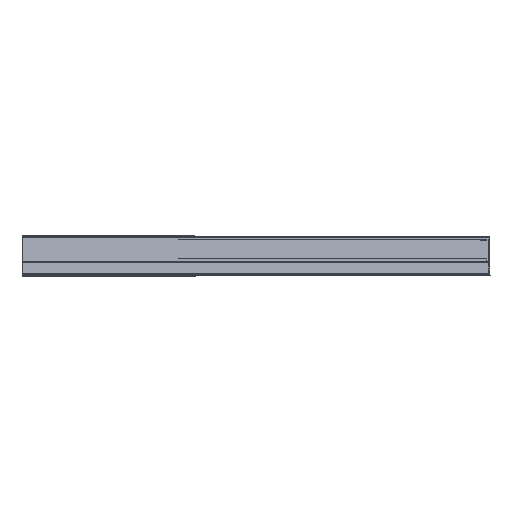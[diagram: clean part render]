
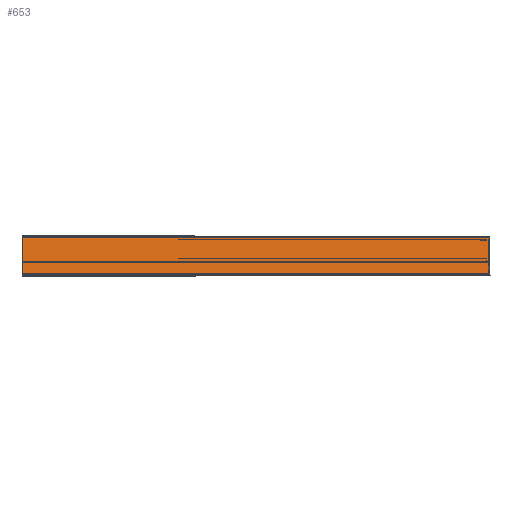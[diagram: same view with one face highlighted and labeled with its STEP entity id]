
A CAD part, top view. The second image highlights one B-rep face of the part: STEP entity #653.
In plain terms, the highlighted planar face has unit normal (0.5, 0, 0.866) as drawn and (-1, 0, 0) by its records, which use the part's own axes.
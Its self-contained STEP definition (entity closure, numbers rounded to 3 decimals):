
#653=ADVANCED_FACE('',(#2896),#2898,.T.);
#2896=FACE_BOUND('',#2897,.T.);
#2897=EDGE_LOOP('',(#6294,#6295,#6296,#6297));
#2898=PLANE('',#2899);
#2899=AXIS2_PLACEMENT_3D('',#2900,#2901,#2902);
#2900=CARTESIAN_POINT('',(-17.5,4.,-548.5));
#2901=DIRECTION('',(-1.,0.,0.));
#2902=DIRECTION('',(0.,-1.,0.));
#6294=ORIENTED_EDGE('',*,*,#8877,.T.);
#6295=ORIENTED_EDGE('',*,*,#8876,.T.);
#6296=ORIENTED_EDGE('',*,*,#8878,.T.);
#6297=ORIENTED_EDGE('',*,*,#8879,.F.);
#8876=EDGE_CURVE('',#10974,#10976,#10978,.T.);
#8877=EDGE_CURVE('',#10979,#10974,#10980,.F.);
#8878=EDGE_CURVE('',#10976,#10981,#10982,.F.);
#8879=EDGE_CURVE('',#10979,#10981,#10983,.T.);
#10974=VERTEX_POINT('',#15446);
#10976=VERTEX_POINT('',#15451);
#10978=LINE('',#15456,#15457);
#10979=VERTEX_POINT('',#15459);
#10980=LINE('',#15460,#15461);
#10981=VERTEX_POINT('',#15463);
#10982=LINE('',#15464,#15465);
#10983=LINE('',#15467,#15468);
#15446=CARTESIAN_POINT('',(-17.5,-73.75,-548.5));
#15451=CARTESIAN_POINT('',(-17.5,-73.75,548.5));
#15456=CARTESIAN_POINT('',(-17.5,-73.75,-548.5));
#15457=VECTOR('',#15458,1.);
#15458=DIRECTION('',(0.,0.,1.));
#15459=CARTESIAN_POINT('',(-17.5,4.,-548.5));
#15460=CARTESIAN_POINT('',(-17.5,-73.75,-548.5));
#15461=VECTOR('',#15462,1.);
#15462=DIRECTION('',(0.,1.,0.));
#15463=CARTESIAN_POINT('',(-17.5,4.,548.5));
#15464=CARTESIAN_POINT('',(-17.5,4.,548.5));
#15465=VECTOR('',#15466,1.);
#15466=DIRECTION('',(0.,-1.,0.));
#15467=CARTESIAN_POINT('',(-17.5,4.,-548.5));
#15468=VECTOR('',#15469,1.);
#15469=DIRECTION('',(0.,0.,1.));
